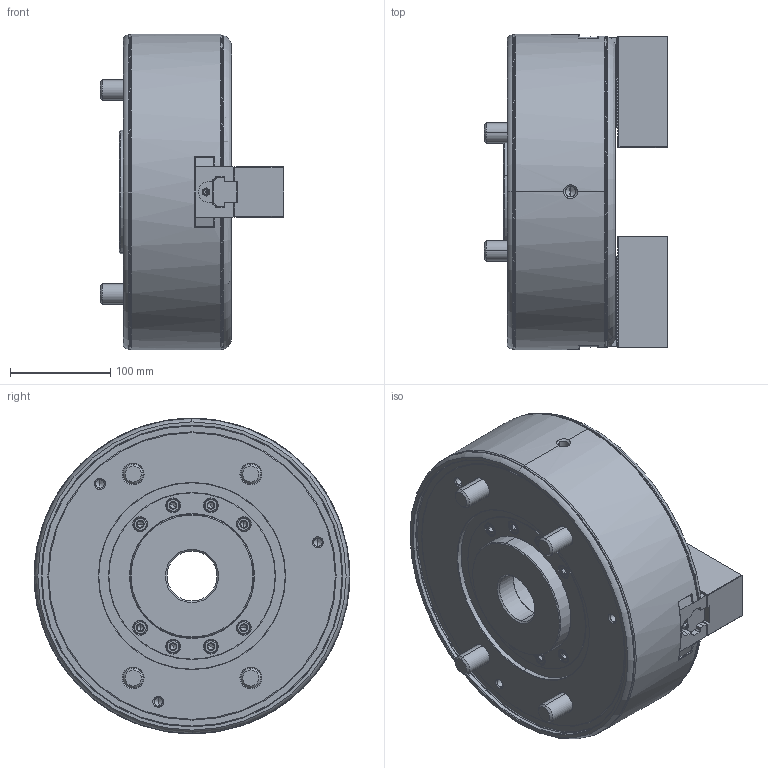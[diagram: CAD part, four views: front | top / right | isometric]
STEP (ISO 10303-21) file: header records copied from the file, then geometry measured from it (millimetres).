
FILE_DESCRIPTION (( 'STEP AP214' ), '1' );
FILE_NAME ('DEV-BRT12-OUTSIDE_VIEW_HOL.STEP', '2024-03-04T01:51:58', ( '' ), ( '' ), 'SwSTEP 2.0', 'SolidWorks 2022', '' );
FILE_SCHEMA (( 'AUTOMOTIVE_DESIGN' ));
Length unit declared in the file: millimetre
Products named in the file (9): DEV-BRT12-ドローナット; DEV-BRT12-カバー; DEV-BRT12-OUTSIDE_VIEW_HOL; Part1^DEV-BRT12-クミタテ; DEV-BRT12-Bアナツキ M16×35; DEV-BRT12-Bアナツキボタン M6×10; DEV-BRT12-SB12N1 ソフトジョー; DEV-BRT12-Bアナツキ M20×110; DEV-BRT12-Tナット
Assembly tree (19 placements, depth 2):
  DEV-BRT12-OUTSIDE_VIEW_HOL
    DEV-BRT12-ドローナット
    DEV-BRT12-SB12N1 ソフトジョー  x2
    DEV-BRT12-Tナット  x2
    DEV-BRT12-カバー
    DEV-BRT12-Bアナツキ M16×35  x4
    DEV-BRT12-Bアナツキボタン M6×10  x4
    DEV-BRT12-Bアナツキ M20×110  x4
    Part1^DEV-BRT12-クミタテ
Bounding box: 183 x 315 x 315 mm (x, y, z)
Volume: 7584726.2 mm3; surface area: 584704 mm2
Topology: 19 solids, 34 shells, 3561 faces, 9820 edges, 6399 vertices
Faces by surface type: plane 2558, cylinder 381, cone 352, bspline 190, torus 76, sphere 4
Entity records: 98391 total; most frequent: CARTESIAN_POINT 26370, ORIENTED_EDGE 15606, DIRECTION 13489, EDGE_CURVE 7803, VECTOR 6027, LINE 6027, VERTEX_POINT 5114, AXIS2_PLACEMENT_3D 3731
